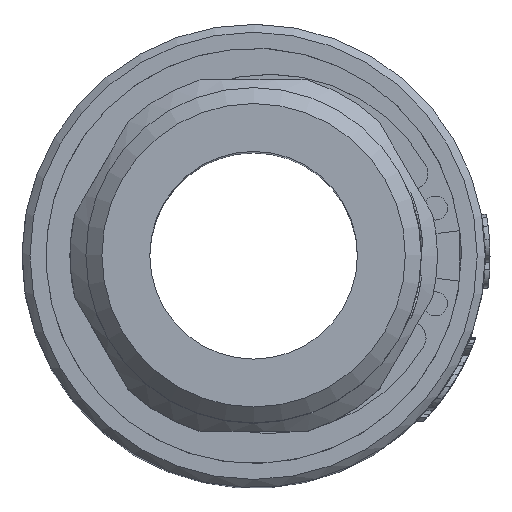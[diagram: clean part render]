
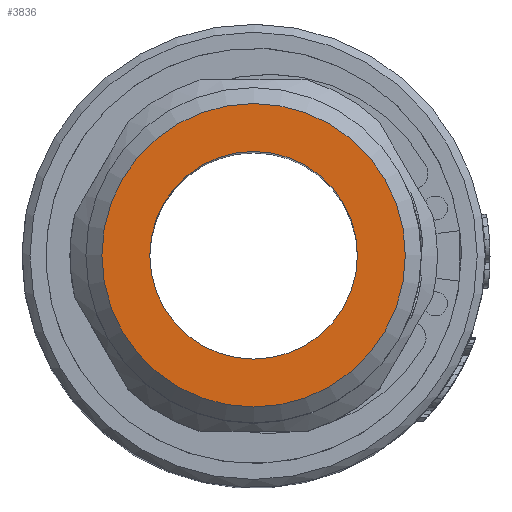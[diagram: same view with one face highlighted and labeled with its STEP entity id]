
A CAD part, top view. The second image highlights one B-rep face of the part: STEP entity #3836.
In plain terms, the highlighted planar face has unit normal (0, 0, 1).
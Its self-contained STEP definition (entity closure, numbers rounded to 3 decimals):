
#196=FACE_BOUND('',#5900,.T.);
#197=FACE_BOUND('',#5901,.T.);
#417=CIRCLE('',#16418,6.5);
#434=CIRCLE('',#16443,9.5);
#3836=ADVANCED_FACE('',(#196,#197),#4333,.T.);
#4333=PLANE('',#16445);
#5900=EDGE_LOOP('',(#9315));
#5901=EDGE_LOOP('',(#9316));
#9315=ORIENTED_EDGE('',*,*,#14349,.T.);
#9316=ORIENTED_EDGE('',*,*,#14368,.T.);
#12142=VERTEX_POINT('',#31135);
#12160=VERTEX_POINT('',#31180);
#14349=EDGE_CURVE('',#12142,#12142,#417,.T.);
#14368=EDGE_CURVE('',#12160,#12160,#434,.T.);
#16418=AXIS2_PLACEMENT_3D('',#31134,#18084,#18085);
#16443=AXIS2_PLACEMENT_3D('',#31179,#18136,#18137);
#16445=AXIS2_PLACEMENT_3D('',#31182,#18140,#18141);
#18084=DIRECTION('',(0.,0.,-1.));
#18085=DIRECTION('',(1.,0.,0.));
#18136=DIRECTION('',(0.,0.,1.));
#18137=DIRECTION('',(1.,0.,0.));
#18140=DIRECTION('',(0.,0.,1.));
#18141=DIRECTION('',(-1.,0.,0.));
#31134=CARTESIAN_POINT('',(0.,0.,64.));
#31135=CARTESIAN_POINT('',(6.5,0.,64.));
#31179=CARTESIAN_POINT('',(0.,0.,64.));
#31180=CARTESIAN_POINT('',(9.5,0.,64.));
#31182=CARTESIAN_POINT('',(0.,0.,64.));
